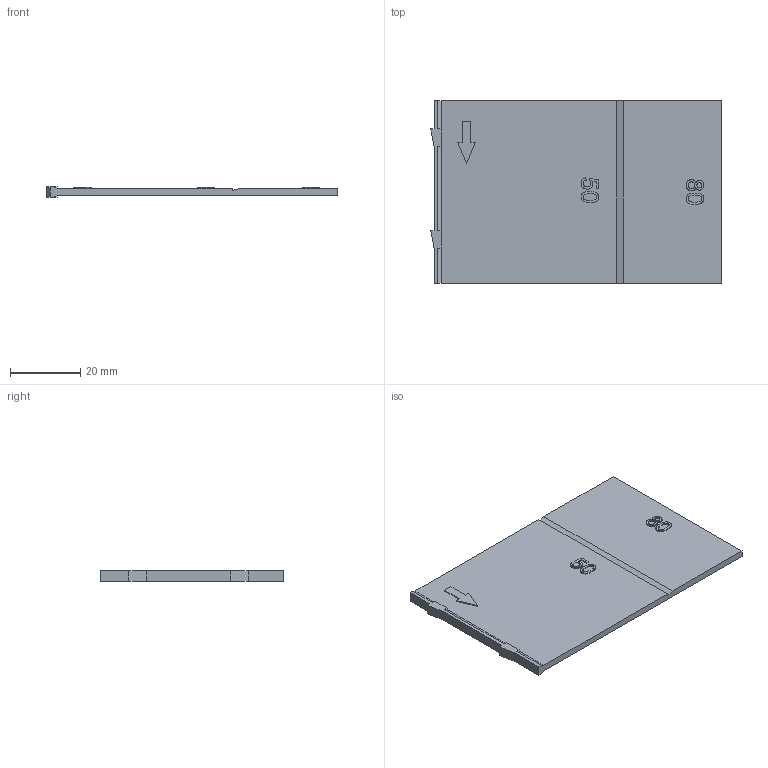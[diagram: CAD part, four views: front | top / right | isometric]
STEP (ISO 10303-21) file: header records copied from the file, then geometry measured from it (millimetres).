
FILE_DESCRIPTION (( 'STEP AP214' ), '1' );
FILE_NAME ('Ìåæïîëþñíàÿ ïåðåãîðîäêà Å100.STEP', '2015-04-24T07:21:07', ( 'admin' ), ( '' ), 'SwSTEP 2.0', 'SolidWorks 2012', '' );
FILE_SCHEMA (( 'AUTOMOTIVE_DESIGN' ));
Length unit declared in the file: millimetre
Products named in the file (1): Ìåæïîëþñíàÿ ïåðåãîðîäêà Å100
Bounding box: 83 x 52 x 3 mm (x, y, z)
Volume: 8612.6 mm3; surface area: 9230.3 mm2
Topology: 1 solids, 1 shells, 103 faces, 268 edges, 176 vertices
Faces by surface type: plane 58, bspline 45
Entity records: 5746 total; most frequent: CARTESIAN_POINT 3497, ORIENTED_EDGE 536, DIRECTION 296, EDGE_CURVE 268, VECTOR 178, LINE 178, VERTEX_POINT 176, EDGE_LOOP 112
